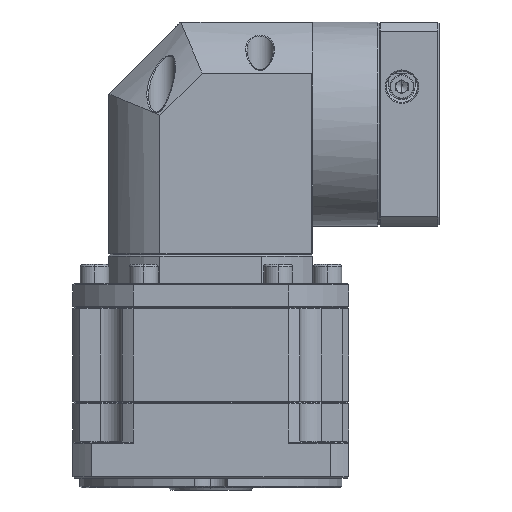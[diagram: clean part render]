
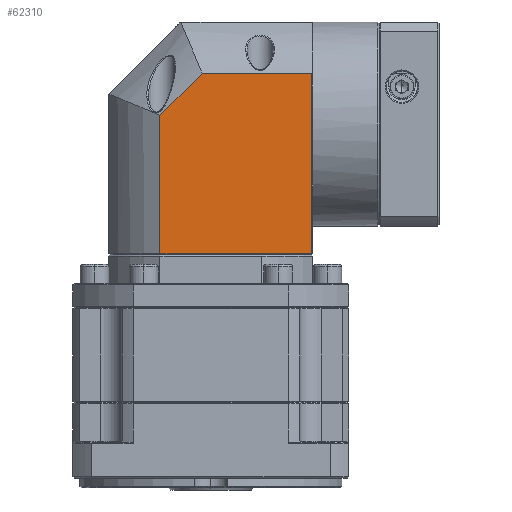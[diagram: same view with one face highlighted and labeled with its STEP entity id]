
A CAD part, front view. The second image highlights one B-rep face of the part: STEP entity #62310.
In plain terms, the highlighted planar face has unit normal (0, -1, 0).
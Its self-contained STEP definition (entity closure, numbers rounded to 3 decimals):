
#12664 = CARTESIAN_POINT ( 'NONE',  ( 21.852, 37.139, 46.266 ) ) ;
#16431 = CARTESIAN_POINT ( 'NONE',  ( 85.565, 37.139, 24.979 ) ) ;
#17573 = AXIS2_PLACEMENT_3D ( 'NONE', #127607, #141952, #76357 ) ;
#18683 = LINE ( 'NONE', #12664, #138754 ) ;
#18738 = PLANE ( 'NONE',  #17573 ) ;
#25910 = ORIENTED_EDGE ( 'NONE', *, *, #121953, .F. ) ;
#29844 = VERTEX_POINT ( 'NONE', #43444 ) ;
#30707 = CARTESIAN_POINT ( 'NONE',  ( 85.565, 37.139, -50.234 ) ) ;
#35499 = LINE ( 'NONE', #129102, #119552 ) ;
#36803 = EDGE_LOOP ( 'NONE', ( #136715, #96617, #87862, #115852, #25910 ) ) ;
#40644 = EDGE_CURVE ( 'NONE', #128318, #118667, #74678, .T. ) ;
#41763 = DIRECTION ( 'NONE',  ( 1., 0., 0. ) ) ;
#43444 = CARTESIAN_POINT ( 'NONE',  ( 39.382, 37.139, 24.979 ) ) ;
#62310 = ADVANCED_FACE ( 'NONE', ( #75233 ), #18738, .F. ) ;
#67446 = EDGE_CURVE ( 'NONE', #29844, #82244, #124512, .T. ) ;
#74678 = LINE ( 'NONE', #30707, #97016 ) ;
#75233 = FACE_OUTER_BOUND ( 'NONE', #36803, .T. ) ;
#76357 = DIRECTION ( 'NONE',  ( -1., 0., 0. ) ) ;
#80310 = DIRECTION ( 'NONE',  ( 0., 0., 1. ) ) ;
#81921 = CARTESIAN_POINT ( 'NONE',  ( 85.065, 37.139, 24.979 ) ) ;
#82244 = VERTEX_POINT ( 'NONE', #81921 ) ;
#87862 = ORIENTED_EDGE ( 'NONE', *, *, #67446, .F. ) ;
#88613 = LINE ( 'NONE', #137147, #121169 ) ;
#93540 = VERTEX_POINT ( 'NONE', #101654 ) ;
#95430 = VECTOR ( 'NONE', #138622, 1000. ) ;
#96598 = DIRECTION ( 'NONE',  ( 0.707, 0., 0.707 ) ) ;
#96617 = ORIENTED_EDGE ( 'NONE', *, *, #140557, .F. ) ;
#97016 = VECTOR ( 'NONE', #41763, 1000. ) ;
#101654 = CARTESIAN_POINT ( 'NONE',  ( 21.852, 37.139, 7.449 ) ) ;
#104643 = CARTESIAN_POINT ( 'NONE',  ( 85.065, 37.139, -50.234 ) ) ;
#115206 = EDGE_CURVE ( 'NONE', #93540, #29844, #35499, .T. ) ;
#115852 = ORIENTED_EDGE ( 'NONE', *, *, #115206, .F. ) ;
#116565 = CARTESIAN_POINT ( 'NONE',  ( 21.852, 37.139, -50.234 ) ) ;
#118667 = VERTEX_POINT ( 'NONE', #104643 ) ;
#119552 = VECTOR ( 'NONE', #96598, 1000. ) ;
#121169 = VECTOR ( 'NONE', #129530, 1000. ) ;
#121953 = EDGE_CURVE ( 'NONE', #128318, #93540, #18683, .T. ) ;
#124512 = LINE ( 'NONE', #16431, #95430 ) ;
#127607 = CARTESIAN_POINT ( 'NONE',  ( 85.565, 37.139, 46.266 ) ) ;
#128318 = VERTEX_POINT ( 'NONE', #116565 ) ;
#129102 = CARTESIAN_POINT ( 'NONE',  ( 21.852, 37.139, 7.449 ) ) ;
#129530 = DIRECTION ( 'NONE',  ( 0., 0., -1. ) ) ;
#136715 = ORIENTED_EDGE ( 'NONE', *, *, #40644, .T. ) ;
#137147 = CARTESIAN_POINT ( 'NONE',  ( 85.065, 37.139, 46.266 ) ) ;
#138622 = DIRECTION ( 'NONE',  ( 1., 0., 0. ) ) ;
#138754 = VECTOR ( 'NONE', #80310, 1000. ) ;
#140557 = EDGE_CURVE ( 'NONE', #82244, #118667, #88613, .T. ) ;
#141952 = DIRECTION ( 'NONE',  ( 0., 1., 0. ) ) ;
